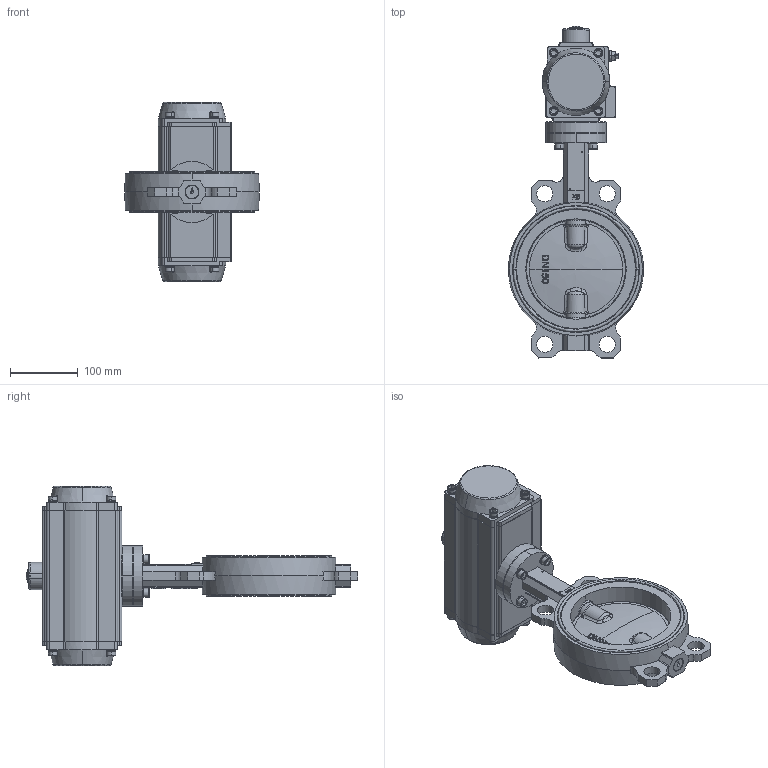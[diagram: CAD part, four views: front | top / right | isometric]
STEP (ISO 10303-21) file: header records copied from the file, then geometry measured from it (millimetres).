
FILE_DESCRIPTION (( 'STEP AP203' ), '1' );
FILE_NAME ('VPI-N03 DN150.step', '2016-09-29T15:06:55', ( 'TECOFI' ), ( '' ), 'SwSTEP 2.0', 'SolidWorks 2014', '' );
FILE_SCHEMA (( 'CONFIG_CONTROL_DESIGN' ));
Length unit declared in the file: millimetre
Products named in the file (1): VPI-N03 DN150
Bounding box: 198.79 x 489.12 x 264 mm (x, y, z)
Volume: 2570311.8 mm3; surface area: 561701.8 mm2
Topology: 58 solids, 58 shells, 2337 faces, 6010 edges, 3898 vertices
Faces by surface type: plane 886, cylinder 673, bspline 492, cone 262, torus 24
Entity records: 101257 total; most frequent: CARTESIAN_POINT 48336, ORIENTED_EDGE 11960, DIRECTION 9499, EDGE_CURVE 5980, VERTEX_POINT 3896, AXIS2_PLACEMENT_3D 3547, EDGE_LOOP 2580, VECTOR 2405
